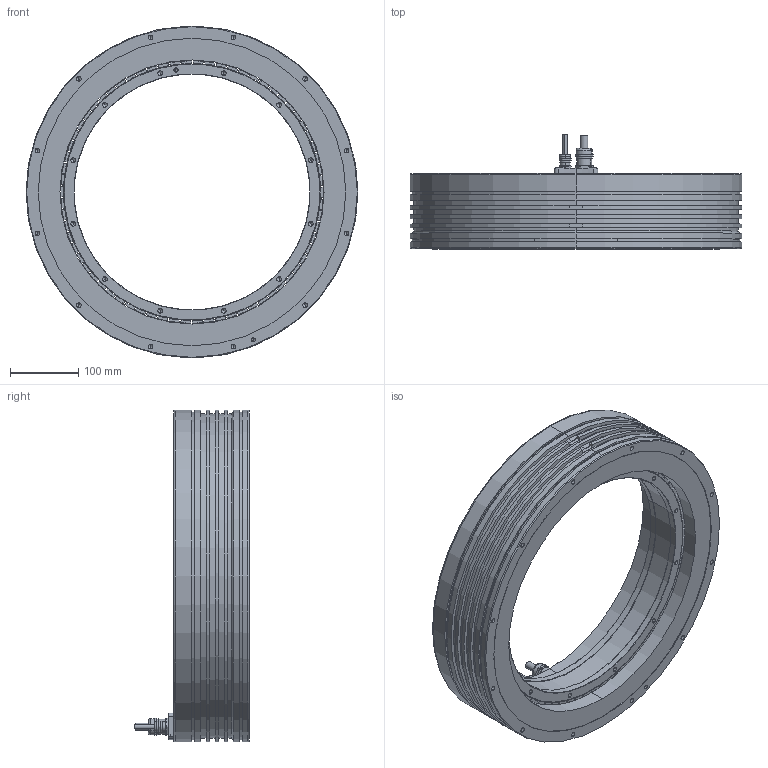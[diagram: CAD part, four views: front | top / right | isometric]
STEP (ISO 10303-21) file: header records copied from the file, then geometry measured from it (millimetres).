
FILE_DESCRIPTION (( 'STEP AP214' ), '1' );
FILE_NAME ('TORQUE KIT QMT LA 485-110-I-AX.STEP', '2025-10-02T09:56:33', ( '' ), ( '' ), 'SwSTEP 2.0', 'SolidWorks 2023', '' );
FILE_SCHEMA (( 'AUTOMOTIVE_DESIGN' ));
Length unit declared in the file: millimetre
Products named in the file (21): Cable; Rotor Glued; Cable Clamp; Rotor Ring; Housing-BO; Cable Gland; Cable Connection; TORQUE KIT QMT LA 485-110-I-AX; Housing; Screw; Rotor; Magnet; Stator; Resin; Cooling Ring
Assembly tree (90 placements, depth 6):
  TORQUE KIT QMT LA 485-110-I-AX
    Stator
      Stator
        Housing
          Housing-BO
            Cooling Ring
        Cable Connection
          Cable Connection
          Cable
          Cable
        Resin
      Cable Clamp
        Cable Clamp
        Cable Gland
        Cable Gland
      Screw  x3
    Rotor
      Rotor Glued
        Rotor Ring
        Magnet  x35
        Magnet  x35
Bounding box: 485 x 167.1 x 485 mm (x, y, z)
Volume: 8148860.4 mm3; surface area: 1154042.2 mm2
Topology: 82 solids, 82 shells, 2998 faces, 6832 edges, 3713 vertices
Faces by surface type: cylinder 1282, sphere 700, plane 490, torus 310, cone 216
Entity records: 31701 total; most frequent: CARTESIAN_POINT 4622, DIRECTION 4618, ORIENTED_EDGE 3788, AXIS2_PLACEMENT_3D 1915, EDGE_CURVE 1894, VERTEX_POINT 1191, EDGE_LOOP 981, CIRCLE 978
